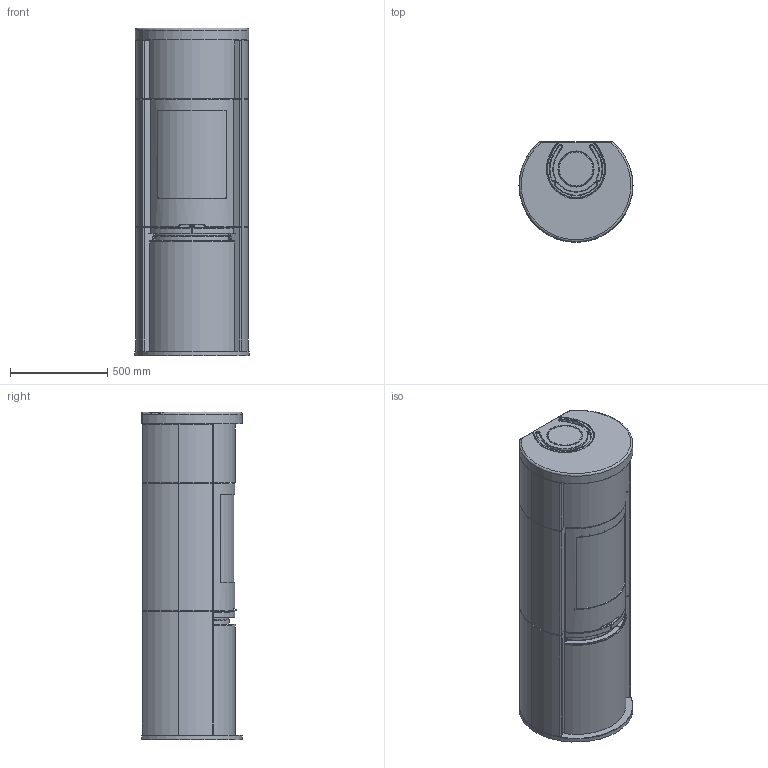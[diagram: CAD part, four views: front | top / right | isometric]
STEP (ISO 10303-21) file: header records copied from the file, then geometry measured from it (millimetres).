
FILE_DESCRIPTION(/* description */ ('Unknown'),/* implementation_level */ '2;1');
FILE_NAME(/* name */ 'C690T interior model-0',/* time_stamp */ '2017-06-28T08:49:57+02:00',/* author */ ('Unknown'),/* organization */ ('NIBE AB/Contura'),/* preprocessor_version */ 'ST-DEVELOPER v16.7',/* originating_system */ 'DEX',/* authorisation */ $);
FILE_SCHEMA (('AUTOMOTIVE_DESIGN {1 0 10303 214 3 1 1}'));
Length unit declared in the file: millimetre
Products named in the file (13): DSN1018766; DSN1018763; DSN1018413; DSN1018769; DSN1018424; DSN1018744; DSN1018768; DSN1018414; DSN1018411; DSN1018429; DSN1018767; DSN1018421; DSN1018745
Assembly tree (12 placements, depth 2):
  DSN1018766
    DSN1018763
    DSN1018413
    DSN1018769
    DSN1018424
    DSN1018744
    DSN1018768
    DSN1018414
    DSN1018411
    DSN1018429
    DSN1018767
    DSN1018421
    DSN1018745
Bounding box: 584.98 x 516.5 x 1680 mm (x, y, z)
Volume: 335907695.8 mm3; surface area: 13248911.3 mm2
Topology: 23 solids, 29 shells, 1266 faces, 3128 edges, 1983 vertices
Faces by surface type: plane 553, bspline 269, cylinder 264, torus 82, cone 77, sphere 21
Full cylindrical faces by diameter (mm): 170 x1, 172 x1, 205 x1, 210.655 x1
Entity records: 46384 total; most frequent: CARTESIAN_POINT 18524, ORIENTED_EDGE 6200, DIRECTION 4880, EDGE_CURVE 3100, VERTEX_POINT 1983, AXIS2_PLACEMENT_3D 1846, EDGE_LOOP 1365, FACE_BOUND 1365
